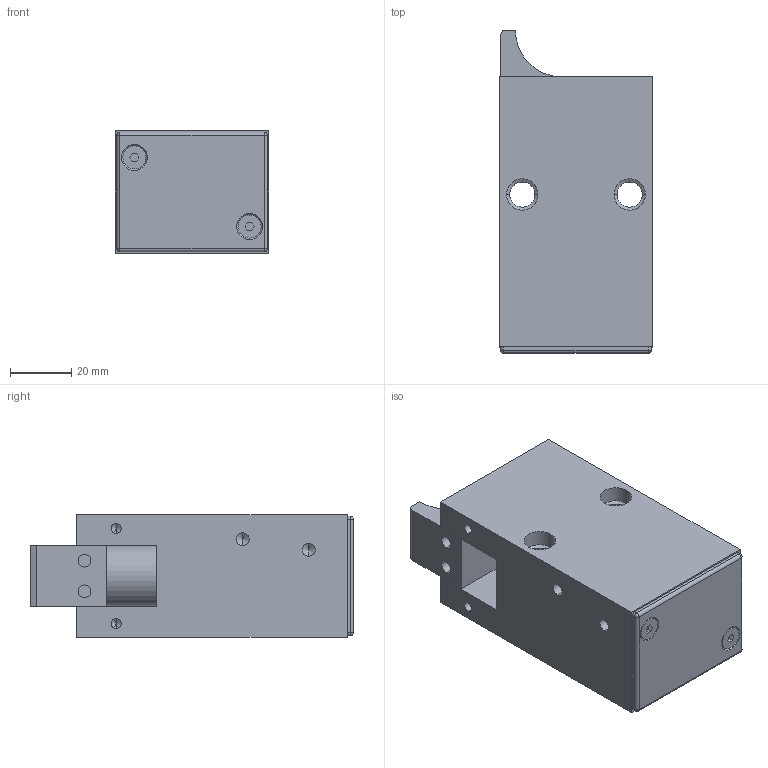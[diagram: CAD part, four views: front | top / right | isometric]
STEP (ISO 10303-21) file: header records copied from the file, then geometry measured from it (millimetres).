
FILE_DESCRIPTION (( 'STEP AP203' ), '1' );
FILE_NAME ('D0400-15-EW-G.STEP', '2011-12-16T08:14:31', ( 'test' ), ( '' ), 'SwSTEP 2.0', 'SolidWorks 2010', '' );
FILE_SCHEMA (( 'CONFIG_CONTROL_DESIGN' ));
Length unit declared in the file: millimetre
Products named in the file (1): D0400-15-EW-G
Bounding box: 50 x 105 x 40 mm (x, y, z)
Volume: 169926.4 mm3; surface area: 28812.1 mm2
Topology: 1 solids, 1 shells, 120 faces, 284 edges, 162 vertices
Faces by surface type: cylinder 49, plane 39, cone 28, sphere 4
Entity records: 3359 total; most frequent: DIRECTION 608, CARTESIAN_POINT 547, ORIENTED_EDGE 528, EDGE_CURVE 264, AXIS2_PLACEMENT_3D 223, LINE 162, VECTOR 162, VERTEX_POINT 162
